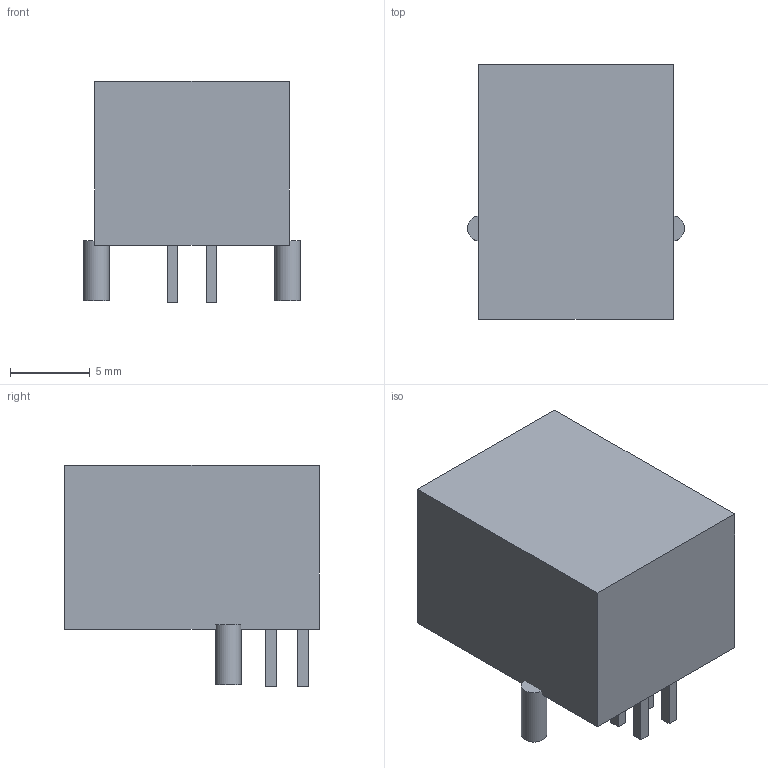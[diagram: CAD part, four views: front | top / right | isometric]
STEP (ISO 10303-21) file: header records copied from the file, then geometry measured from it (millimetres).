
FILE_DESCRIPTION(('Open CASCADE Model'),'2;1');
FILE_NAME('Open CASCADE Shape Model','2026-11-07T16:06:51',('Author'),( 'Open CASCADE'),'Open CASCADE STEP processor 7.9','Open CASCADE 7.9' ,'Unknown');
FILE_SCHEMA(('AUTOMOTIVE_DESIGN { 1 0 10303 214 1 1 1 1 }'));
Length unit declared in the file: millimetre
Products named in the file (9): USB_B_61729; metal-shell; insulator; pin-1; pin-2; pin-3; pin-4; shell-tail-0; shell-tail-1
Assembly tree (8 placements, depth 2):
  USB_B_61729
    metal-shell
    insulator
    pin-1
    pin-2
    pin-3
    pin-4
    shell-tail-0
    shell-tail-1
Bounding box: 13.65 x 16 x 13.9 mm (x, y, z)
Volume: 1550.3 mm3; surface area: 1408.9 mm2
Topology: 8 solids, 8 shells, 49 faces, 96 edges, 64 vertices
Faces by surface type: plane 47, cylinder 2
Full cylindrical faces by diameter (mm): 1.61 x2
Entity records: 2677 total; most frequent: CARTESIAN_POINT 422, DIRECTION 396, LINE 268, VECTOR 268, ORIENTED_EDGE 192, PCURVE 192, DEFINITIONAL_REPRESENTATION 192, EDGE_CURVE 96
